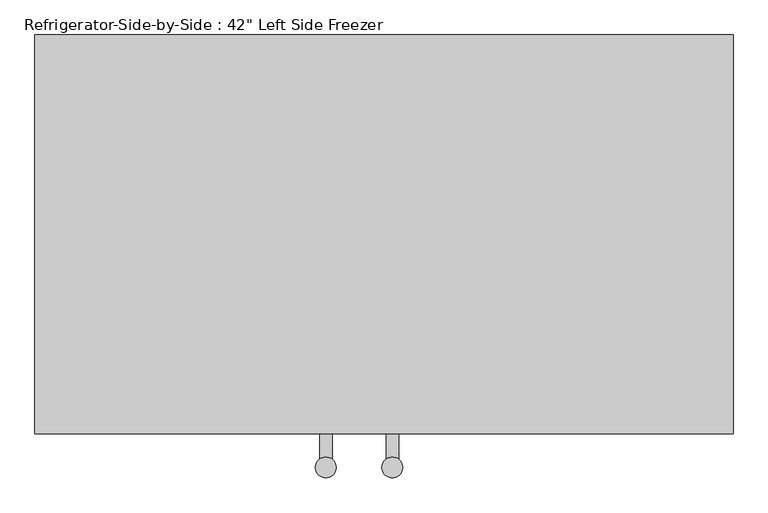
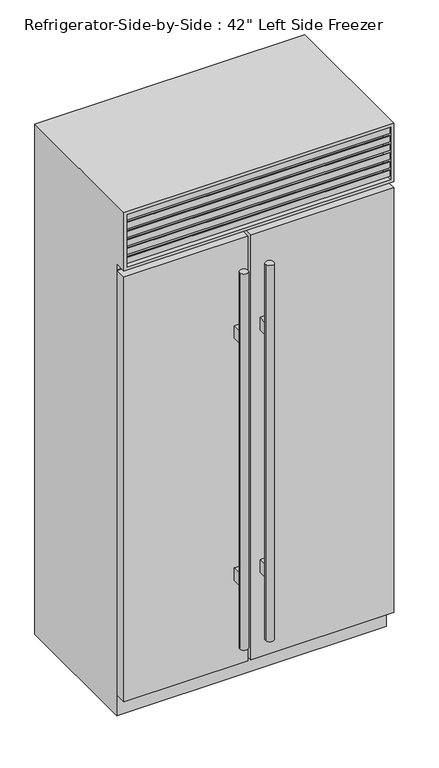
"""IFC4 building model written with IfcOpenShell, lengths in millimetres: proxy geometry."""

from ifc_helpers import new_model, si_unit, frame, origin, place, context, project, spatial, polyline, circle_curve, ellipse_curve, outline, extrude, faceted_brep, source, transform, mapped, element, save
from ifc_brep_helpers import plane_surface, cylinder_surface, advanced_brep


def proxy_0447ab4b(model_context):
    return source(origin(), model_context, "Body", "SolidModel", [
        extrude(outline(polyline([(-533.4, -666.75), (-44.45, -666.75), (-44.45, -711.2), (-533.4, -711.2), (-533.4, -666.75)])), frame((0.0, 0.0, 88.9), z_axis=(0.0, 0.0, 1.0), x_axis=(1.0, 0.0, 0.0)), (0.0, 0.0, 1.0), 1774.825),
        extrude(outline(polyline([(-31.75, -666.75), (533.4, -666.75), (533.4, -711.2), (-31.75, -711.2), (-31.75, -666.75)])), frame((0.0, 0.0, 88.9), z_axis=(0.0, 0.0, 1.0), x_axis=(1.0, 0.0, 0.0)), (0.0, 0.0, 1.0), 1774.825),
        faceted_brep([(533.4, -711.2, 2133.6), (-533.4, -711.2, 2133.6), (-533.4, -711.2, 1889.125), (533.4, -711.2, 1889.125), (520.7, -711.2, 2120.9), (520.7, -711.2, 1901.825), (-520.7, -711.2, 1901.825), (-520.7, -711.2, 2120.9), (533.4, -101.6, 2133.6), (-533.4, -101.6, 2133.6), (-533.4, -101.6, 0.0), (-533.4, -660.4, 0.0), (-533.4, -660.4, 1889.125), (533.4, -660.4, 1889.125), (533.4, -660.4, 0.0), (533.4, -101.6, 0.0), (-520.7, -660.4, 2120.9), (520.7, -660.4, 2120.9), (-520.7, -660.4, 1901.825), (520.7, -660.4, 1901.825)], [[[0, 1, 2, 3], [4, 5, 6, 7]], [[1, 0, 8, 9]], [[2, 1, 9, 10, 11, 12]], [[3, 2, 12, 13]], [[8, 0, 3, 13, 14, 15]], [[4, 7, 16, 17]], [[7, 6, 18, 16]], [[6, 5, 19, 18]], [[5, 4, 17, 19]], [[15, 14, 11, 10]], [[9, 8, 15, 10]], [[17, 16, 18, 19]], [[11, 14, 13, 12]]]),
        extrude(outline(polyline([(-660.4, 1901.825), (-708.025, 1914.5860803), (-708.025, 1939.9860803), (-704.85, 1939.9860803), (-704.85, 1917.1368938), (-660.4, 1905.2265522), (-660.4, 1901.825)])), frame((-520.7, 0.0, 0.0), z_axis=(1.0, 0.0, 0.0), x_axis=(0.0, 1.0, 0.0)), (0.0, 0.0, 1.0), 1041.4),
        extrude(outline(polyline([(-660.4, 1938.0077839), (-708.025, 1950.7688642), (-708.025, 1976.1688642), (-704.85, 1976.1688642), (-704.85, 1953.3196777), (-660.4, 1941.4093361), (-660.4, 1938.0077839)])), frame((-520.7, 0.0, 0.0), z_axis=(1.0, 0.0, 0.0), x_axis=(0.0, 1.0, 0.0)), (0.0, 0.0, 1.0), 1041.4),
        extrude(outline(polyline([(-660.4, 1974.1905679), (-708.025, 1986.9516482), (-708.025, 2012.3516482), (-704.85, 2012.3516482), (-704.85, 1989.5024616), (-660.4, 1977.59212), (-660.4, 1974.1905679)])), frame((-520.7, 0.0, 0.0), z_axis=(1.0, 0.0, 0.0), x_axis=(0.0, 1.0, 0.0)), (0.0, 0.0, 1.0), 1041.4),
        extrude(outline(polyline([(-660.4, 2010.3733518), (-708.025, 2023.1344321), (-708.025, 2048.5344321), (-704.85, 2048.5344321), (-704.85, 2025.6852456), (-660.4, 2013.774904), (-660.4, 2010.3733518)])), frame((-520.7, 0.0, 0.0), z_axis=(1.0, 0.0, 0.0), x_axis=(0.0, 1.0, 0.0)), (0.0, 0.0, 1.0), 1041.4),
        extrude(outline(polyline([(-660.4, 2046.5561358), (-708.025, 2059.3172161), (-708.025, 2084.7172161), (-704.85, 2084.7172161), (-704.85, 2061.8680295), (-660.4, 2049.9576879), (-660.4, 2046.5561358)])), frame((-520.7, 0.0, 0.0), z_axis=(1.0, 0.0, 0.0), x_axis=(0.0, 1.0, 0.0)), (0.0, 0.0, 1.0), 1041.4),
        extrude(outline(polyline([(-660.4, 2082.7389197), (-708.025, 2095.5), (-708.025, 2120.9), (-704.85, 2120.9), (-704.85, 2098.0508135), (-660.4, 2086.1404719), (-660.4, 2082.7389197)])), frame((-520.7, 0.0, 0.0), z_axis=(1.0, 0.0, 0.0), x_axis=(0.0, 1.0, 0.0)), (0.0, 0.0, 1.0), 1041.4),
        advanced_brep(
        [(-25.4, -660.4, 1857.375), (-25.4, -666.75, 1857.375), (-25.4, -666.75, 95.25), (-25.4, -660.4, 95.25), (527.05, -666.75, 95.25), (527.05, -660.4, 95.25), (527.05, -666.75, 1857.375), (527.05, -660.4, 1857.375), (-28.575, -660.4, 1860.55), (530.225, -660.4, 1860.55), (530.225, -660.4, 92.075), (-28.575, -660.4, 92.075), (-28.575, -666.75, 92.075), (530.225, -666.75, 92.075), (530.225, -666.75, 1860.55), (-28.575, -666.75, 1860.55)],
        [
            (0, 1),
            (1, 2),
            (2, 3),
            (3, 0),
            (2, 4),
            (4, 5),
            (5, 3),
            (4, 6),
            (6, 7),
            (7, 5),
            (8, 9),
            (9, 10),
            (10, 11),
            (11, 8),
            (7, 0),
            (12, 13),
            (13, 14),
            (14, 15),
            (15, 12),
            (1, 6),
            (15, 8, ellipse_curve(frame((-28.575, -663.575, 1860.55), z_axis=(-0.7071067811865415, 0.0, -0.7071067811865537), x_axis=(-0.7071067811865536, 0.0, 0.7071067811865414)), 4.4901281, 3.175)),
            (11, 12, ellipse_curve(frame((-28.575, -663.575, 92.075), z_axis=(-0.7071067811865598, 0.0, 0.7071067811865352), x_axis=(0.7071067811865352, 0.0, 0.7071067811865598)), 4.4901281, 3.175)),
            (10, 13, ellipse_curve(frame((530.225, -663.575, 92.075), z_axis=(-0.7071067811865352, 0.0, -0.7071067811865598), x_axis=(-0.7071067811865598, 0.0, 0.7071067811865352)), 4.4901281, 3.175)),
            (9, 14, ellipse_curve(frame((530.225, -663.575, 1860.55), z_axis=(0.7071067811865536, 0.0, -0.7071067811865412), x_axis=(-0.7071067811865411, 0.0, -0.7071067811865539)), 4.4901281, 3.175)),
        ],
        [
            plane_surface(frame((-25.4, -666.75, 1857.375), z_axis=(1.0, 0.0, 0.0), x_axis=(0.0, 0.0, -1.0))),
            plane_surface(frame((-25.4, -666.75, 95.25), z_axis=(0.0, 0.0, 1.0), x_axis=(1.0, 0.0, 0.0))),
            plane_surface(frame((527.05, -666.75, 95.25), z_axis=(-1.0, 0.0, 0.0), x_axis=(0.0, 0.0, 1.0))),
            plane_surface(frame((527.05, -660.4, 1857.375), z_axis=(0.0, 1.0, 0.0), x_axis=(-1.0, 0.0, 0.0))),
            plane_surface(frame((530.225, -666.75, 1860.55), z_axis=(0.0, -1.0, 0.0), x_axis=(-1.0, 0.0, 0.0))),
            plane_surface(frame((527.05, -666.75, 1857.375), z_axis=(0.0, 0.0, -1.0), x_axis=(-1.0, 0.0, 0.0))),
            cylinder_surface(frame((-28.575, -663.575, 1863.725), z_axis=(0.0, 0.0, 1.0), x_axis=(0.0, -1.0, 0.0)), 3.175),
            cylinder_surface(frame((-31.75, -663.575, 92.075), z_axis=(-1.0, 0.0, 0.0), x_axis=(0.0, -1.0, 0.0)), 3.175),
            cylinder_surface(frame((530.225, -663.575, 88.9), z_axis=(0.0, 0.0, -1.0), x_axis=(0.0, -1.0, 0.0)), 3.175),
            cylinder_surface(frame((533.4, -663.575, 1860.55), z_axis=(1.0, 0.0, 0.0), x_axis=(0.0, -1.0, 0.0)), 3.175),
        ],
        [
            (0, [[1, 2, 3, 4]]),
            (1, [[-3, 5, 6, 7]]),
            (2, [[-6, 8, 9, 10]]),
            (3, [[11, 12, 13, 14], [-7, -10, 15, -4]]),
            (4, [[16, 17, 18, 19], [20, -8, -5, -2]]),
            (5, [[-9, -20, -1, -15]]),
            (6, [[21, -14, 22, -19]]),
            (7, [[-22, -13, 23, -16]]),
            (8, [[-23, -12, 24, -17]]),
            (9, [[-24, -11, -21, -18]]),
        ],
    ),
        advanced_brep(
        [(-527.05, -660.4, 1857.375), (-527.05, -666.75, 1857.375), (-527.05, -666.75, 95.25), (-527.05, -660.4, 95.25), (-50.8, -666.75, 95.25), (-50.8, -660.4, 95.25), (-50.8, -666.75, 1857.375), (-50.8, -660.4, 1857.375), (-530.225, -660.4, 1860.55), (-47.625, -660.4, 1860.55), (-47.625, -660.4, 92.075), (-530.225, -660.4, 92.075), (-530.225, -666.75, 92.075), (-47.625, -666.75, 92.075), (-47.625, -666.75, 1860.55), (-530.225, -666.75, 1860.55)],
        [
            (0, 1),
            (1, 2),
            (2, 3),
            (3, 0),
            (2, 4),
            (4, 5),
            (5, 3),
            (4, 6),
            (6, 7),
            (7, 5),
            (8, 9),
            (9, 10),
            (10, 11),
            (11, 8),
            (7, 0),
            (12, 13),
            (13, 14),
            (14, 15),
            (15, 12),
            (1, 6),
            (15, 8, ellipse_curve(frame((-530.225, -663.575, 1860.55), z_axis=(-0.7071067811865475, 0.0, -0.7071067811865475), x_axis=(-0.7071067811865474, 0.0, 0.7071067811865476)), 4.4901281, 3.175)),
            (11, 12, ellipse_curve(frame((-530.225, -663.575, 92.075), z_axis=(-0.7071067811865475, 0.0, 0.7071067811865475), x_axis=(0.7071067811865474, 0.0, 0.7071067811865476)), 4.4901281, 3.175)),
            (10, 13, ellipse_curve(frame((-47.625, -663.575, 92.075), z_axis=(-0.7071067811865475, 0.0, -0.7071067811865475), x_axis=(-0.7071067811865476, 0.0, 0.7071067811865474)), 4.4901281, 3.175)),
            (9, 14, ellipse_curve(frame((-47.625, -663.575, 1860.55), z_axis=(0.7071067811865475, 0.0, -0.7071067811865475), x_axis=(-0.7071067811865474, 0.0, -0.7071067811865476)), 4.4901281, 3.175)),
        ],
        [
            plane_surface(frame((-527.05, -666.75, 1857.375), z_axis=(1.0, 0.0, 0.0), x_axis=(0.0, 0.0, -1.0))),
            plane_surface(frame((-527.05, -666.75, 95.25), z_axis=(0.0, 0.0, 1.0), x_axis=(1.0, 0.0, 0.0))),
            plane_surface(frame((-50.8, -666.75, 95.25), z_axis=(-1.0, 0.0, 0.0), x_axis=(0.0, 0.0, 1.0))),
            plane_surface(frame((-50.8, -660.4, 1857.375), z_axis=(0.0, 1.0, 0.0), x_axis=(-1.0, 0.0, 0.0))),
            plane_surface(frame((-47.625, -666.75, 1860.55), z_axis=(0.0, -1.0, 0.0), x_axis=(-1.0, 0.0, 0.0))),
            plane_surface(frame((-50.8, -666.75, 1857.375), z_axis=(0.0, 0.0, -1.0), x_axis=(-1.0, 0.0, 0.0))),
            cylinder_surface(frame((-530.225, -663.575, 1863.725), z_axis=(0.0, 0.0, 1.0), x_axis=(0.0, -1.0, 0.0)), 3.175),
            cylinder_surface(frame((-533.4, -663.575, 92.075), z_axis=(-1.0, 0.0, 0.0), x_axis=(0.0, -1.0, 0.0)), 3.175),
            cylinder_surface(frame((-47.625, -663.575, 88.9), z_axis=(0.0, 0.0, -1.0), x_axis=(0.0, -1.0, 0.0)), 3.175),
            cylinder_surface(frame((-44.45, -663.575, 1860.55), z_axis=(1.0, 0.0, 0.0), x_axis=(0.0, -1.0, 0.0)), 3.175),
        ],
        [
            (0, [[1, 2, 3, 4]]),
            (1, [[-3, 5, 6, 7]]),
            (2, [[-6, 8, 9, 10]]),
            (3, [[11, 12, 13, 14], [-7, -10, 15, -4]]),
            (4, [[16, 17, 18, 19], [20, -8, -5, -2]]),
            (5, [[-9, -20, -1, -15]]),
            (6, [[21, -14, 22, -19]]),
            (7, [[-22, -13, 23, -16]]),
            (8, [[-23, -12, 24, -17]]),
            (9, [[-24, -11, -21, -18]]),
        ],
    ),
        advanced_brep(
        [(-3.175, -762.3741958, 1762.125), (28.575, -762.3741958, 1762.125), (-3.175, -762.3741958, 190.5), (28.575, -762.3741958, 190.5), (22.225, -749.6741958, 1457.325), (22.225, -749.6741958, 1508.125), (3.175, -749.6741958, 1508.125), (3.175, -749.6741958, 1457.325), (22.225, -749.6741958, 444.5), (22.225, -749.6741958, 495.3), (3.175, -749.6741958, 495.3), (3.175, -749.6741958, 444.5), (22.225, -711.2, 1508.125), (22.225, -711.2, 1457.325), (3.175, -711.2, 1457.325), (3.175, -711.2, 1508.125), (22.225, -711.2, 495.3), (22.225, -711.2, 444.5), (3.175, -711.2, 444.5), (3.175, -711.2, 495.3)],
        [
            (0, 1, circle_curve(frame((12.7, -762.3741958, 1762.125), z_axis=(0.0, 0.0, 1.0), x_axis=(1.0, 0.0, 0.0)), 15.875)),
            (1, 0, circle_curve(frame((12.7, -762.3741958, 1762.125), z_axis=(0.0, 0.0, 1.0), x_axis=(1.0, 0.0, 0.0)), 15.875)),
            (2, 3, circle_curve(frame((12.7, -762.3741958, 190.5), z_axis=(0.0, 0.0, -1.0), x_axis=(1.0, 0.0, 0.0)), 15.875)),
            (3, 2, circle_curve(frame((12.7, -762.3741958, 190.5), z_axis=(0.0, 0.0, -1.0), x_axis=(1.0, 0.0, 0.0)), 15.875)),
            (0, 2),
            (3, 1),
            (4, 5),
            (5, 6, circle_curve(frame((12.7, -762.3741958, 1508.125), z_axis=(0.0, 0.0, 1.0), x_axis=(1.0, 0.0, 0.0)), 15.875)),
            (6, 7),
            (7, 4, circle_curve(frame((12.7, -762.3741958, 1457.325), z_axis=(0.0, 0.0, -1.0), x_axis=(1.0, 0.0, 0.0)), 15.875)),
            (8, 9),
            (9, 10, circle_curve(frame((12.7, -762.3741958, 495.3), z_axis=(0.0, 0.0, 1.0), x_axis=(1.0, 0.0, 0.0)), 15.875)),
            (10, 11),
            (11, 8, circle_curve(frame((12.7, -762.3741958, 444.5), z_axis=(0.0, 0.0, -1.0), x_axis=(1.0, 0.0, 0.0)), 15.875)),
            (12, 13),
            (13, 14),
            (14, 15),
            (15, 12),
            (16, 17),
            (17, 18),
            (18, 19),
            (19, 16),
            (12, 5),
            (4, 13),
            (7, 14),
            (6, 15),
            (16, 9),
            (8, 17),
            (11, 18),
            (10, 19),
        ],
        [
            plane_surface(frame((28.575, -762.3741958, 1762.125), z_axis=(0.0, 0.0, 1.0), x_axis=(0.0, 1.0, 0.0))),
            plane_surface(frame((28.575, -762.3741958, 190.5), z_axis=(0.0, 0.0, -1.0), x_axis=(0.0, -1.0, 0.0))),
            cylinder_surface(frame((12.7, -762.3741958, 190.5), z_axis=(0.0, 0.0, 1.0), x_axis=(1.0, 0.0, 0.0)), 15.875),
            plane_surface(frame((22.225, -711.2, 1508.125), z_axis=(0.0, 1.0, 0.0), x_axis=(0.0, 0.0, -1.0))),
            plane_surface(frame((22.225, -711.2, 1508.125), z_axis=(1.0, 0.0, 0.0), x_axis=(0.0, -1.0, 0.0))),
            plane_surface(frame((22.225, -711.2, 1457.325), z_axis=(0.0, 0.0, -1.0), x_axis=(0.0, -1.0, 0.0))),
            plane_surface(frame((3.175, -711.2, 1457.325), z_axis=(-1.0, 0.0, 0.0), x_axis=(0.0, -1.0, 0.0))),
            plane_surface(frame((3.175, -711.2, 1508.125), z_axis=(0.0, 0.0, 1.0), x_axis=(0.0, -1.0, 0.0))),
            plane_surface(frame((22.225, -711.2, 495.3), z_axis=(1.0, 0.0, 0.0), x_axis=(0.0, -1.0, 0.0))),
            plane_surface(frame((22.225, -711.2, 444.5), z_axis=(0.0, 0.0, -1.0), x_axis=(0.0, -1.0, 0.0))),
            plane_surface(frame((3.175, -711.2, 444.5), z_axis=(-1.0, 0.0, 0.0), x_axis=(0.0, -1.0, 0.0))),
            plane_surface(frame((3.175, -711.2, 495.3), z_axis=(0.0, 0.0, 1.0), x_axis=(0.0, -1.0, 0.0))),
        ],
        [
            (0, [[1, 2]]),
            (1, [[3, 4]]),
            (2, [[-1, 5, -4, 6]]),
            (2, [[-2, -6, -3, -5], [7, 8, 9, 10], [11, 12, 13, 14]]),
            (3, [[15, 16, 17, 18]]),
            (3, [[19, 20, 21, 22]]),
            (4, [[-15, 23, -7, 24]]),
            (5, [[-16, -24, -10, 25]]),
            (6, [[-17, -25, -9, 26]]),
            (7, [[-18, -26, -8, -23]]),
            (8, [[-19, 27, -11, 28]]),
            (9, [[-20, -28, -14, 29]]),
            (10, [[-21, -29, -13, 30]]),
            (11, [[-22, -30, -12, -27]]),
        ],
    ),
        advanced_brep(
        [(-79.375, -711.2, 1508.125), (-79.375, -711.2, 1457.325), (-98.425, -711.2, 1457.325), (-98.425, -711.2, 1508.125), (-79.375, -711.2, 495.3), (-79.375, -711.2, 444.5), (-98.425, -711.2, 444.5), (-98.425, -711.2, 495.3), (-79.375, -749.6741958, 1508.125), (-79.375, -749.6741958, 1457.325), (-98.425, -749.6741958, 1457.325), (-98.425, -749.6741958, 1508.125), (-79.375, -749.6741958, 495.3), (-79.375, -749.6741958, 444.5), (-98.425, -749.6741958, 444.5), (-98.425, -749.6741958, 495.3), (-104.775, -762.3741958, 1762.125), (-73.025, -762.3741958, 1762.125), (-104.775, -762.3741958, 190.5), (-73.025, -762.3741958, 190.5)],
        [
            (0, 1),
            (1, 2),
            (2, 3),
            (3, 0),
            (4, 5),
            (5, 6),
            (6, 7),
            (7, 4),
            (0, 8),
            (8, 9),
            (9, 1),
            (9, 10, circle_curve(frame((-88.9, -762.3741958, 1457.325), z_axis=(0.0, 0.0, 1.0), x_axis=(1.0, 0.0, 0.0)), 15.875)),
            (10, 2),
            (10, 11),
            (11, 3),
            (11, 8, circle_curve(frame((-88.9, -762.3741958, 1508.125), z_axis=(0.0, 0.0, -1.0), x_axis=(1.0, 0.0, 0.0)), 15.875)),
            (4, 12),
            (12, 13),
            (13, 5),
            (13, 14, circle_curve(frame((-88.9, -762.3741958, 444.5), z_axis=(0.0, 0.0, 1.0), x_axis=(1.0, 0.0, 0.0)), 15.875)),
            (14, 6),
            (14, 15),
            (15, 7),
            (15, 12, circle_curve(frame((-88.9, -762.3741958, 495.3), z_axis=(0.0, 0.0, -1.0), x_axis=(1.0, 0.0, 0.0)), 15.875)),
            (16, 17, circle_curve(frame((-88.9, -762.3741958, 1762.125), z_axis=(0.0, 0.0, 1.0), x_axis=(1.0, 0.0, 0.0)), 15.875)),
            (17, 16, circle_curve(frame((-88.9, -762.3741958, 1762.125), z_axis=(0.0, 0.0, 1.0), x_axis=(1.0, 0.0, 0.0)), 15.875)),
            (18, 19, circle_curve(frame((-88.9, -762.3741958, 190.5), z_axis=(0.0, 0.0, -1.0), x_axis=(1.0, 0.0, 0.0)), 15.875)),
            (19, 18, circle_curve(frame((-88.9, -762.3741958, 190.5), z_axis=(0.0, 0.0, -1.0), x_axis=(1.0, 0.0, 0.0)), 15.875)),
            (16, 18),
            (19, 17),
        ],
        [
            plane_surface(frame((-79.375, -711.2, 1508.125), z_axis=(0.0, 1.0, 0.0), x_axis=(0.0, 0.0, -1.0))),
            plane_surface(frame((-79.375, -711.2, 1508.125), z_axis=(1.0, 0.0, 0.0), x_axis=(0.0, -1.0, 0.0))),
            plane_surface(frame((-79.375, -711.2, 1457.325), z_axis=(0.0, 0.0, -1.0), x_axis=(0.0, -1.0, 0.0))),
            plane_surface(frame((-98.425, -711.2, 1457.325), z_axis=(-1.0, 0.0, 0.0), x_axis=(0.0, -1.0, 0.0))),
            plane_surface(frame((-98.425, -711.2, 1508.125), z_axis=(0.0, 0.0, 1.0), x_axis=(0.0, -1.0, 0.0))),
            plane_surface(frame((-79.375, -711.2, 495.3), z_axis=(1.0, 0.0, 0.0), x_axis=(0.0, -1.0, 0.0))),
            plane_surface(frame((-79.375, -711.2, 444.5), z_axis=(0.0, 0.0, -1.0), x_axis=(0.0, -1.0, 0.0))),
            plane_surface(frame((-98.425, -711.2, 444.5), z_axis=(-1.0, 0.0, 0.0), x_axis=(0.0, -1.0, 0.0))),
            plane_surface(frame((-98.425, -711.2, 495.3), z_axis=(0.0, 0.0, 1.0), x_axis=(0.0, -1.0, 0.0))),
            plane_surface(frame((-73.025, -762.3741958, 1762.125), z_axis=(0.0, 0.0, 1.0), x_axis=(0.0, 1.0, 0.0))),
            plane_surface(frame((-73.025, -762.3741958, 190.5), z_axis=(0.0, 0.0, -1.0), x_axis=(0.0, -1.0, 0.0))),
            cylinder_surface(frame((-88.9, -762.3741958, 190.5), z_axis=(0.0, 0.0, 1.0), x_axis=(1.0, 0.0, 0.0)), 15.875),
        ],
        [
            (0, [[1, 2, 3, 4]]),
            (0, [[5, 6, 7, 8]]),
            (1, [[-1, 9, 10, 11]]),
            (2, [[-2, -11, 12, 13]]),
            (3, [[-3, -13, 14, 15]]),
            (4, [[-4, -15, 16, -9]]),
            (5, [[-5, 17, 18, 19]]),
            (6, [[-6, -19, 20, 21]]),
            (7, [[-7, -21, 22, 23]]),
            (8, [[-8, -23, 24, -17]]),
            (9, [[25, 26]]),
            (10, [[27, 28]]),
            (11, [[-25, 29, -28, 30]]),
            (11, [[-26, -30, -27, -29], [-10, -16, -14, -12], [-18, -24, -22, -20]]),
        ],
    ),
    ])


if __name__ == "__main__":
    model = new_model("IFC4")
    model_context = context("Model", 3, world=origin())
    ifc_project = project(units=[si_unit("LENGTHUNIT", "METRE", prefix="MILLI")], contexts=[model_context])
    site = spatial("IfcSite", under=ifc_project)
    building = spatial("IfcBuilding", under=site)
    placement = place(None, origin())
    proxy_shape = proxy_0447ab4b(model_context)
    element("IfcBuildingElementProxy", 1, Name="Refrigerator-Side-by-Side : 42\" Left Side Freezer", ObjectType="Refrigerator-Side-by-Side : 42\" Left Side Freezer", at=placement, inside=building, context=model_context, shape_type="MappedRepresentation", body=[
        mapped(proxy_shape, transform((0.0, 0.0, 0.0), x_axis=(1.0, 0.0, 0.0), y_axis=(0.0, 1.0, 0.0), z_axis=(0.0, 0.0, 1.0))),
    ])
    save(model, "model.ifc")
